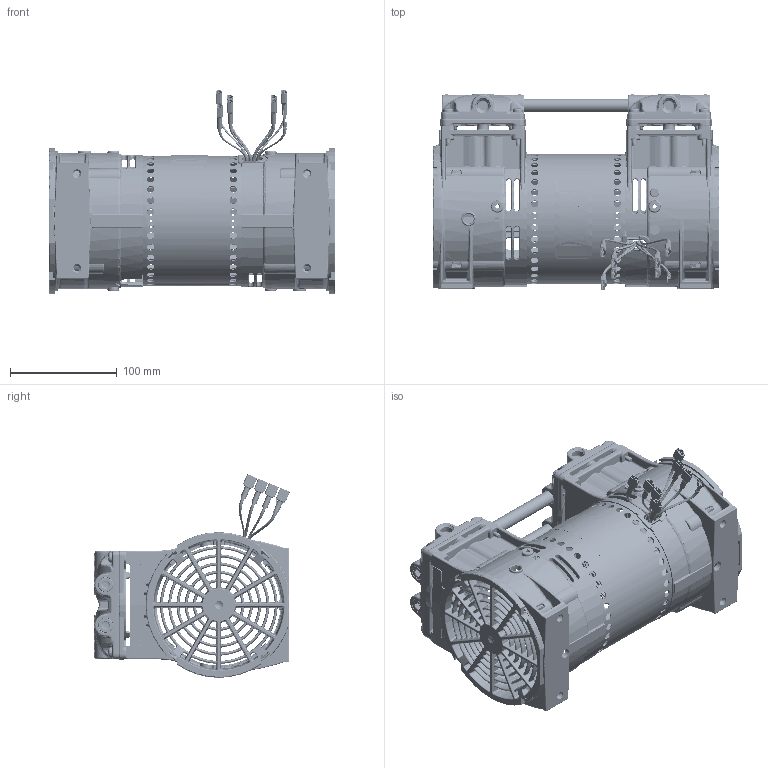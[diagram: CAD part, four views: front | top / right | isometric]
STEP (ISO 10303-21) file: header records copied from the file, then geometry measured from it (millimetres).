
FILE_DESCRIPTION (( 'STEP AP214' ), '1' );
FILE_NAME ('2680CWW40.STEP', '2018-07-19T12:31:55', ( 'Gardner Denver Thomas' ), ( 'Gardner Denver Thomas' ), 'SwSTEP 2.0', 'SolidWorks 2017', '' );
FILE_SCHEMA (( 'AUTOMOTIVE_DESIGN' ));
Length unit declared in the file: inch
Products named in the file (1): 2680CWW40
Bounding box: 268.48 x 183.5 x 191.17 mm (x, y, z)
Volume: 622731.4 mm3; surface area: 480534.4 mm2
Topology: 42 solids, 42 shells, 11498 faces, 29494 edges, 17788 vertices
Faces by surface type: bspline 3909, cylinder 2720, plane 2580, cone 1124, torus 839, sphere 326
Entity records: 663163 total; most frequent: CARTESIAN_POINT 270547, ORIENTED_EDGE 58228, DIRECTION 42073, EDGE_CURVE 29114, VERTEX_POINT 17778, AXIS2_PLACEMENT_3D 16778, EDGE_LOOP 12256, DIMENSIONAL_EXPONENTS 11506
